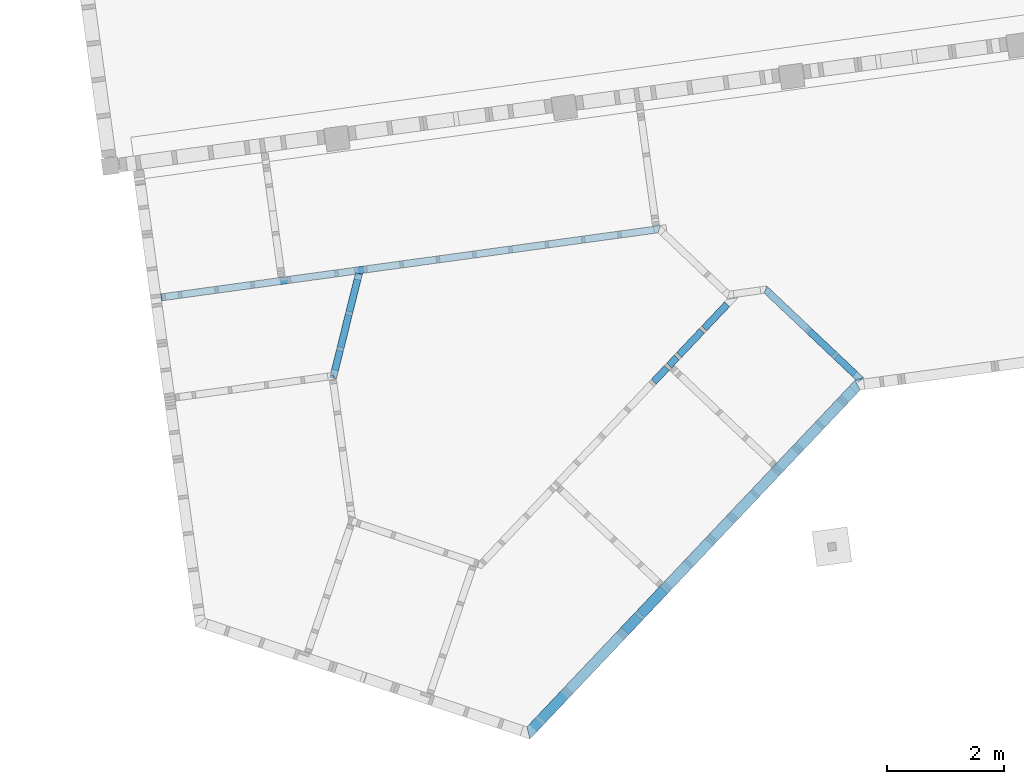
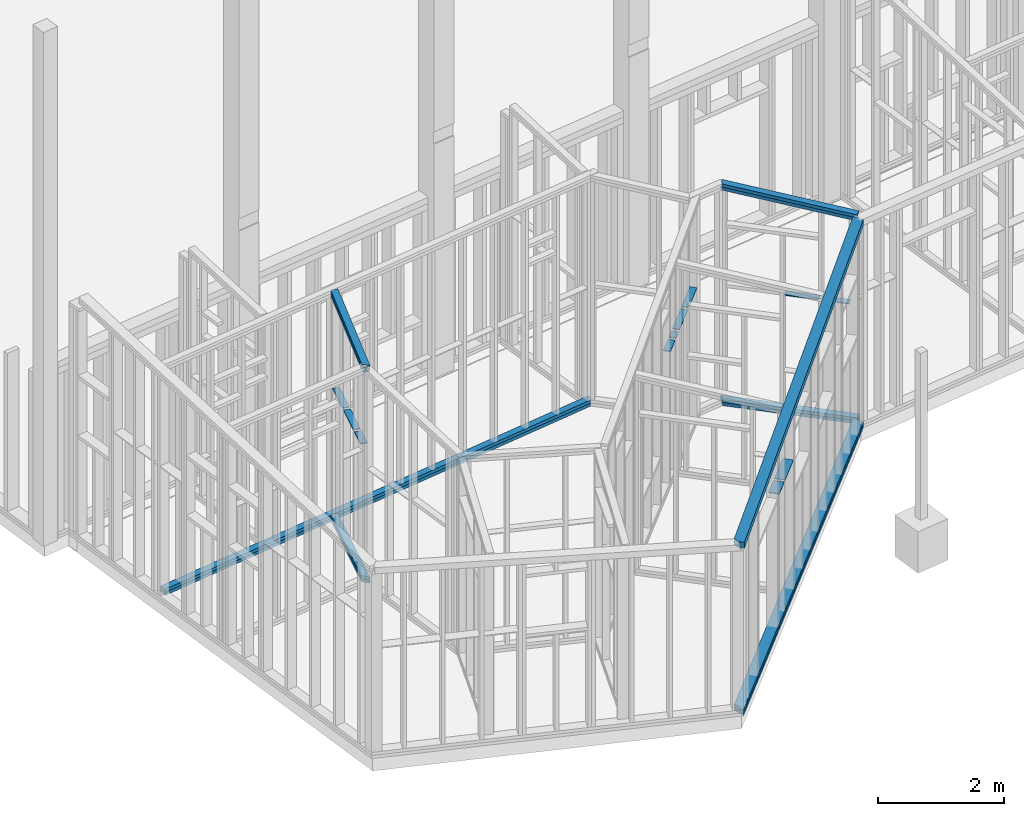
# One storey, part 17 of 24: 17 beams.
"""IFC2X3 building model written with IfcOpenShell, lengths in metres."""

from ifc_helpers import new_model, entity, si_unit, converted_unit, derived_unit, money_unit, direction, frame, frame_2d, origin_with_axes, place, context, subcontext, project, spatial, rectangle, extrude, boolean, clip, halfspace, faceted_brep, material, type_object, element, save


model = new_model("IFC2X3")

# Units and contexts
model_context = context("Model", 3, precision=1e-05, world=origin_with_axes(), true_north=direction((0.0, 1.0)))
body_context = subcontext(model_context, "Body", "Model", "MODEL_VIEW")
ifc_project = project(units=[si_unit("LENGTHUNIT", "METRE"), si_unit("AREAUNIT", "SQUARE_METRE"), si_unit("VOLUMEUNIT", "CUBIC_METRE"), converted_unit("PLANEANGLEUNIT", "DEGREE", entity("IfcPlaneAngleMeasure", 0.0174532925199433), si_unit("PLANEANGLEUNIT", "RADIAN"), dimensions=[0, 0, 0, 0, 0, 0, 0]), money_unit("EUR"), converted_unit("TIMEUNIT", "Year", entity("IfcTimeMeasure", 31557600.0), si_unit("TIMEUNIT", "SECOND"), dimensions=[0, 0, 1, 0, 0, 0, 0]), si_unit("MASSUNIT", "GRAM", prefix="KILO"), si_unit("THERMODYNAMICTEMPERATUREUNIT", "DEGREE_CELSIUS"), si_unit("LUMINOUSINTENSITYUNIT", "LUMEN"), si_unit("ENERGYUNIT", "JOULE", prefix="MEGA"), derived_unit("THERMALCONDUCTANCEUNIT", [(si_unit("POWERUNIT", "WATT"), 1), (si_unit("LENGTHUNIT", "METRE"), -1), (si_unit("THERMODYNAMICTEMPERATUREUNIT", "KELVIN"), -1)]), derived_unit("SPECIFICHEATCAPACITYUNIT", [(si_unit("ENERGYUNIT", "JOULE"), 1), (si_unit("MASSUNIT", "GRAM", prefix="KILO"), -1), (si_unit("THERMODYNAMICTEMPERATUREUNIT", "KELVIN"), -1)]), derived_unit("MASSDENSITYUNIT", [(si_unit("MASSUNIT", "GRAM", prefix="KILO"), 1), (si_unit("VOLUMEUNIT", "CUBIC_METRE"), -1)])], contexts=[model_context])

# Site, building, storey
site_placement = place(None, origin_with_axes())
site = spatial("IfcSite", under=ifc_project, at=site_placement, Name="Gelände", CompositionType="ELEMENT")
building_placement = place(site_placement, origin_with_axes())
building = spatial("IfcBuilding", under=site, at=building_placement, Name="Gebäude", CompositionType="ELEMENT")
storey_placement = place(building_placement, origin_with_axes())
storey = spatial("IfcBuildingStorey", under=building, at=storey_placement, Name="EG", CompositionType="ELEMENT", Elevation=0.0)

# Beams
ifc_material_1 = material(Name="Bauholz")
beam_type_1 = type_object("IfcBeamType", Name="Bauholz 120 x 60", PredefinedType="NOTDEFINED")
beam_1_placement = place(storey_placement, frame((97.76922316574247, -153.1216503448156, -0.04300000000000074), z_axis=(0.0, 0.0, 1.0), x_axis=(-0.6874340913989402, -0.7262467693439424, 0.0)))
element("IfcBeam", 1, at=beam_1_placement, inside=storey, type_object=beam_type_1, material=ifc_material_1, Name="Unterzug-021", context=body_context, shape_type="CSG", body=[
    boolean("DIFFERENCE", extrude(rectangle(XDim=0.06, YDim=0.12, at=frame_2d((-0.03, 0.0), x_axis=(1.0, 0.0))), frame((0.0, -0.02878464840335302, 0.0), z_axis=(0.0, 1.0, 0.0), x_axis=(0.0, 0.0, 1.0)), (0.0, 0.0, 1.0), 2.269469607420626), faceted_brep([(0.06000000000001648, 0.02876458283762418, 0.0), (-0.06000000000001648, -0.02876464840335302, 0.0), (-0.05999999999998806, -0.02878464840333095, 0.0), (0.06000000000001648, -0.02878464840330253, 0.0), (-0.06000000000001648, -0.02876464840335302, -0.06), (0.06000000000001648, 0.02876458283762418, -0.05999999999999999), (-0.05999999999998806, -0.02878464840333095, -0.05999999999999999), (0.06000000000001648, -0.02878464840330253, -0.05999999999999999)], [[[0, 1, 2, 3]], [[4, 1, 0, 5]], [[1, 4, 6, 2]], [[6, 7, 3, 2]], [[5, 0, 3, 7]], [[4, 5, 7, 6]]])),
])
beam_2_placement = place(storey_placement, frame((97.76922313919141, -153.1216503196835, 4.133874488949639), z_axis=(0.0, 0.0, 1.0), x_axis=(-0.6874340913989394, -0.7262467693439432, 0.0)))
element("IfcBeam", 2, at=beam_2_placement, inside=storey, type_object=beam_type_1, material=ifc_material_1, Name="Unterzug-021", context=body_context, shape_type="CSG", body=[
    boolean("DIFFERENCE", boolean("DIFFERENCE", clip(clip(extrude(rectangle(XDim=0.06, YDim=0.12, at=frame_2d((-0.03, 0.0), x_axis=(1.0, 0.0))), frame((0.0, -0.02822734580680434, 0.003092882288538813), z_axis=(0.0, 0.9940506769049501, -0.1089185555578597), x_axis=(0.0, 0.1089185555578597, 0.9940506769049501)), (0.0, 0.0, 1.0), 2.287797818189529), halfspace(frame((0.0, 0.0, 0.0), z_axis=(0.0, 1.0, 0.0), x_axis=(0.0, 0.0, 1.0)), True)), halfspace(frame((0.0, 2.227475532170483, 0.0), z_axis=(0.0, -1.0, 0.0), x_axis=(0.0, 0.0, -1.0)), True)), faceted_brep([(0.06000000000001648, 0.03204348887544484, -0.003511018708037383), (-0.003820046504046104, 0.0, 0.0), (0.06000000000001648, 0.0, 0.0), (0.003946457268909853, 0.0, -0.06035909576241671), (0.06000000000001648, 0.02814399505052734, -0.06344284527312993), (0.06000000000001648, 0.0, -0.06035909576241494)], [[[0, 1, 2]], [[3, 1, 0, 4]], [[1, 3, 5, 2]], [[4, 0, 2, 5]], [[3, 4, 5]]])), faceted_brep([(-0.06000000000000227, 2.224207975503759, -0.3040665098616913), (-0.06000000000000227, 2.227475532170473, -0.2742449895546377), (-0.05999999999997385, 2.227475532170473, -0.3044245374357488), (0.06000000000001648, 2.227475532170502, -0.2742449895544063), (0.06000000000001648, 2.224207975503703, -0.3040665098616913), (0.06000000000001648, 2.227475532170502, -0.3044245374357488)], [[[0, 1, 2]], [[3, 1, 0, 4]], [[1, 3, 5, 2]], [[4, 0, 2, 5]], [[3, 4, 5]]])),
])
beam_3_placement = place(storey_placement, frame((87.45742343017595, -153.2534633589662, -0.04300000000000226), z_axis=(0.0, 0.0, 1.0), x_axis=(0.1357111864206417, -0.9907484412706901, 0.0)))
element("IfcBeam", 3, at=beam_3_placement, inside=storey, type_object=beam_type_1, material=ifc_material_1, Name="Unterzug-021", context=body_context, shape_type="CSG", body=[
    boolean("DIFFERENCE", boolean("DIFFERENCE", extrude(rectangle(XDim=0.06000008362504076, YDim=0.12, at=frame_2d((-0.03000004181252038, 0.0), x_axis=(1.0, 0.0))), frame((0.0, 0.0, 0.0), z_axis=(0.0, 1.0, 0.0), x_axis=(0.0, 0.0, 1.0)), (0.0, 0.0, 1.0), 8.604462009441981), faceted_brep([(0.05999999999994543, 3.334071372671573, 8.362504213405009e-08), (0.05999999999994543, 3.334071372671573, -0.05999999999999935), (0.05999999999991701, 3.419799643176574, -0.05999999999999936), (0.05999999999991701, 3.419799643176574, 8.362504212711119e-08), (0.03044530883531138, 3.345889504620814, 8.362504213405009e-08), (0.03044530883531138, 3.345889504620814, -0.05999999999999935)], [[[0, 1, 2, 3]], [[0, 4, 5, 1]], [[5, 2, 1]], [[4, 3, 2, 5]], [[4, 0, 3]]])), faceted_brep([(-0.06000000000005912, 8.604442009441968, -0.06000008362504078), (-0.06000000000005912, 8.604442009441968, 0.0), (-0.0600000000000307, 8.604462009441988, 0.0), (-0.0600000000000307, 8.604462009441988, -0.06000008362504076), (0.05999999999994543, 8.54691276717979, 0.0), (0.05999999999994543, 8.54691276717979, -0.06000008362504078), (0.05999999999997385, 8.604462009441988, 0.0), (0.05999999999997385, 8.604462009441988, -0.06000008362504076)], [[[0, 1, 2, 3]], [[4, 1, 0, 5]], [[1, 4, 6, 2]], [[6, 7, 3, 2]], [[5, 0, 3, 7]], [[4, 5, 7, 6]]])),
])
beam_4_placement = place(storey_placement, frame((90.83470891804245, -152.8440630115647, -0.04299991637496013), z_axis=(0.0, 0.0, 1.0), x_axis=(-0.9703151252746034, 0.2418440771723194, 0.0)))
element("IfcBeam", 4, at=beam_4_placement, inside=storey, type_object=beam_type_1, material=ifc_material_1, Name="Unterzug-021", context=body_context, shape_type="CSG", body=[
    boolean("DIFFERENCE", extrude(rectangle(XDim=0.06000008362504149, YDim=0.12, at=frame_2d((-0.03000004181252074, 0.0), x_axis=(1.0, 0.0))), frame((0.0, 0.0, 0.0), z_axis=(0.0, 1.0, 0.0), x_axis=(0.0, 0.0, 1.0)), (0.0, 0.0, 1.0), 1.841665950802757), faceted_brep([(-0.06000000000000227, 1.841645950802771, -0.06000008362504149), (-0.06000000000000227, 1.841645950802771, 0.0), (-0.06000000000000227, 1.841665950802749, 0.0), (-0.06000000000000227, 1.841665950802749, -0.06000008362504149), (0.06000000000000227, 1.760392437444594, 0.0), (0.06000000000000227, 1.760392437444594, -0.06000008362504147), (0.06000000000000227, 1.841665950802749, 0.0), (0.06000000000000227, 1.841665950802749, -0.06000008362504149)], [[[0, 1, 2, 3]], [[4, 1, 0, 5]], [[1, 4, 6, 2]], [[6, 7, 3, 2]], [[5, 0, 3, 7]], [[4, 5, 7, 6]]])),
])
beam_5_placement = place(storey_placement, frame((90.83444930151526, -152.8451046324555, 4.305423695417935), z_axis=(0.0, 0.0, 1.0), x_axis=(-0.9703151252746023, 0.2418440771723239, 0.0)))
element("IfcBeam", 5, at=beam_5_placement, inside=storey, type_object=beam_type_1, material=ifc_material_1, Name="Unterzug-021", context=body_context, shape_type="CSG", body=[
    boolean("DIFFERENCE", clip(clip(extrude(rectangle(XDim=0.06, YDim=0.12, at=frame_2d((-0.03, 0.0), x_axis=(1.0, 0.0))), frame((0.0, -0.02195948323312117, 0.0028655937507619), z_axis=(0.0, 0.9915928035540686, -0.1293974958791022), x_axis=(0.0, 0.1293974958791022, 0.9915928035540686)), (0.0, 0.0, 1.0), 1.901391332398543), halfspace(frame((0.0, 0.0, 0.0), z_axis=(0.0, 1.0, 0.0), x_axis=(0.0, 0.0, 1.0)), True)), halfspace(frame((0.0, 1.841486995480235, 0.0), z_axis=(0.0, -1.0, 0.0), x_axis=(0.0, 0.0, -1.0)), True)), faceted_brep([(0.06000000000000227, 1.841486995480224, -0.2956591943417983), (-0.0142333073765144, 1.841486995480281, -0.2956591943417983), (-0.0142333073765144, 1.841486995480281, -0.2403040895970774), (0.06000000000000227, 1.841486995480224, -0.2403040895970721), (0.06000000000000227, 1.801994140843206, -0.2956591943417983), (0.001558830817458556, 1.801994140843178, -0.2956591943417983), (0.0, 1.805892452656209, -0.2356591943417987), (0.02432748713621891, 1.745054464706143, -0.2882288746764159), (0.02432748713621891, 1.745054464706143, -0.2356591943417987), (0.06000000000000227, 1.805892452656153, -0.2356591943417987), (0.0600000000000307, 1.759318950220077, -0.2356591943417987), (0.0600000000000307, 1.759318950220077, -0.2900903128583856)], [[[0, 1, 2, 3]], [[1, 0, 4, 5]], [[6, 2, 1, 5, 7, 8]], [[6, 9, 3, 2]], [[4, 0, 3, 9, 10, 11]], [[5, 4, 11, 7]], [[7, 11, 10, 8]], [[9, 6, 8, 10]]])),
])
beam_type_2 = type_object("IfcBeamType", Name="Bauholz 120 x 15", PredefinedType="NOTDEFINED")
beam_6_placement = place(storey_placement, frame((95.86421761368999, -154.689926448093, 2.471999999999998), z_axis=(0.0, 0.0, 1.0), x_axis=(0.7262467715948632, -0.687434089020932, 0.0)))
element("IfcBeam", 6, at=beam_6_placement, inside=storey, type_object=beam_type_2, material=ifc_material_1, Name="Unterzug-021", context=body_context, shape_type="CSG", body=[
    boolean("DIFFERENCE", boolean("DIFFERENCE", boolean("DIFFERENCE", extrude(rectangle(XDim=0.015, YDim=0.12, at=frame_2d((-0.0075, 0.0), x_axis=(1.0, 0.0))), frame((0.0, 0.0, 0.0), z_axis=(0.0, 1.0, 0.0), x_axis=(0.0, 0.0, 1.0)), (0.0, 0.0, 1.0), 1.814999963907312), faceted_brep([(0.05999993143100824, 1.250000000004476, -0.01500000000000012), (0.05999993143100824, 1.250000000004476, 0.0), (0.05999993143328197, 1.190000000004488, 0.0), (0.05999993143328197, 1.190000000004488, -0.01500000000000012), (-0.06000006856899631, 1.249999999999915, 0.0), (-0.06000006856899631, 1.249999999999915, -0.01500000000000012), (-0.060000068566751, 1.189999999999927, 0.0), (-0.060000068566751, 1.189999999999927, -0.01500000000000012)], [[[0, 1, 2, 3]], [[4, 1, 0, 5]], [[1, 4, 6, 2]], [[7, 3, 2, 6]], [[5, 0, 3, 7]], [[4, 5, 7, 6]]])), faceted_brep([(0.0599999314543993, 0.625000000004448, -0.01500000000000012), (0.0599999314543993, 0.625000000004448, 0.0), (0.05999993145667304, 0.5650000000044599, 0.0), (0.05999993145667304, 0.5650000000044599, -0.01500000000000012), (-0.06000006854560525, 0.6249999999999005, 0.0), (-0.06000006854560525, 0.6249999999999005, -0.01500000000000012), (-0.06000006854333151, 0.5649999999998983, 0.0), (-0.06000006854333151, 0.5649999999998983, -0.01500000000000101)], [[[0, 1, 2, 3]], [[4, 1, 0, 5]], [[1, 4, 6, 2]], [[7, 3, 2, 6]], [[5, 0, 3, 7]], [[4, 5, 7, 6]]])), faceted_brep([(0.05999993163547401, 0.3808320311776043, -0.01500000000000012), (0.05999993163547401, 0.3808320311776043, 0.0), (0.05999993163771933, 0.3208320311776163, 0.0), (0.05999993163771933, 0.3208320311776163, -0.01500000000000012), (-0.06000006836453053, 0.3808320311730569, 0.0), (-0.06000006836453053, 0.3808320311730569, -0.01500000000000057), (-0.06000006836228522, 0.3208320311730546, 0.0), (-0.06000006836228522, 0.3208320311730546, -0.01500000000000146)], [[[0, 1, 2, 3]], [[4, 1, 0, 5]], [[1, 4, 6, 2]], [[7, 3, 2, 6]], [[5, 0, 3, 7]], [[4, 5, 7, 6]]])),
])
beam_7_placement = place(storey_placement, frame((98.51999135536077, -153.8322953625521, 2.149999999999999), z_axis=(0.0, 0.0, 1.0), x_axis=(-0.6874340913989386, -0.726246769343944, 0.0)))
element("IfcBeam", 7, at=beam_7_placement, inside=storey, type_object=beam_type_2, material=ifc_material_1, Name="Unterzug-021", context=body_context, shape_type="CSG", body=[
    boolean("DIFFERENCE", extrude(rectangle(XDim=0.015, YDim=0.12, at=frame_2d((-0.0075, 0.0), x_axis=(1.0, 0.0))), frame((0.0, 0.0, 0.0), z_axis=(0.0, 1.0, 0.0), x_axis=(0.0, 0.0, 1.0)), (0.0, 0.0, 1.0), 1.062428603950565), faceted_brep([(0.06000007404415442, 0.6249999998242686, 0.0), (-0.05999992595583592, 0.6250000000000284, 0.0), (-0.05999992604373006, 0.5649999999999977, 0.0), (0.06000007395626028, 0.5649999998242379, 0.0), (-0.05999992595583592, 0.6250000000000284, -0.01500000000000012), (0.06000007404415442, 0.6249999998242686, -0.01500000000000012), (-0.05999992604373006, 0.5649999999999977, -0.01500000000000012), (0.06000007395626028, 0.5649999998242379, -0.01500000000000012)], [[[0, 1, 2, 3]], [[4, 1, 0, 5]], [[1, 4, 6, 2]], [[7, 3, 2, 6]], [[5, 0, 3, 7]], [[4, 5, 7, 6]]])),
])
beam_8_placement = place(storey_placement, frame((90.80859343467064, -152.9488422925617, 2.471999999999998), z_axis=(0.0, 0.0, 1.0), x_axis=(-0.9703151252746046, 0.2418440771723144, 0.0)))
element("IfcBeam", 8, at=beam_8_placement, inside=storey, type_object=beam_type_2, material=ifc_material_1, Name="Unterzug-021", context=body_context, shape_type="CSG", body=[
    boolean("DIFFERENCE", boolean("DIFFERENCE", extrude(rectangle(XDim=0.015, YDim=0.12, at=frame_2d((-0.0075, 0.0), x_axis=(1.0, 0.0))), frame((0.0, 0.0, 0.0), z_axis=(0.0, 1.0, 0.0), x_axis=(0.0, 0.0, 1.0)), (0.0, 0.0, 1.0), 1.592407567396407), faceted_brep([(-0.05999993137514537, 0.5649999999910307, -0.01500000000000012), (-0.05999993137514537, 0.5649999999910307, 0.0), (-0.05999993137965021, 0.624999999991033, 0.0), (-0.05999993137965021, 0.624999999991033, -0.01500000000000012), (0.06000006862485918, 0.5649999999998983, 0.0), (0.06000006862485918, 0.5649999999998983, -0.01500000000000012), (0.06000006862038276, 0.6249999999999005, 0.0), (0.06000006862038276, 0.6249999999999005, -0.01500000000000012)], [[[0, 1, 2, 3]], [[4, 1, 0, 5]], [[1, 4, 6, 2]], [[7, 3, 2, 6]], [[5, 0, 3, 7]], [[4, 5, 7, 6]]])), faceted_brep([(-0.05999993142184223, 1.189999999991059, -0.01500000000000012), (-0.05999993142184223, 1.189999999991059, 0.0), (-0.05999993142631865, 1.249999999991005, 0.0), (-0.05999993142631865, 1.249999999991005, -0.01500000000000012), (0.0600000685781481, 1.189999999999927, 0.0), (0.0600000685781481, 1.189999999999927, -0.01500000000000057), (0.0600000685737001, 1.249999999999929, 0.0), (0.0600000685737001, 1.249999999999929, -0.01500000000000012)], [[[0, 1, 2, 3]], [[4, 1, 0, 5]], [[1, 4, 6, 2]], [[7, 3, 2, 6]], [[5, 0, 3, 7]], [[4, 5, 7, 6]]])),
])
ifc_material_2 = material(Name="Holz, Bauholz")
beam_type_3 = type_object("IfcBeamType", Name="Holz, Bauholz 120 x 60", PredefinedType="NOTDEFINED")
beam_9_placement = place(storey_placement, frame((90.83449974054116, -152.844902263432, 4.244942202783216), z_axis=(0.0, 0.0, 1.0), x_axis=(-0.9703151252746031, 0.2418440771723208, 0.0)))
element("IfcBeam", 9, at=beam_9_placement, inside=storey, type_object=beam_type_3, material=ifc_material_2, Name="Unterzug-021", context=body_context, shape_type="CSG", body=[
    boolean("DIFFERENCE", clip(clip(extrude(rectangle(XDim=0.06, YDim=0.12, at=frame_2d((-0.03, 0.0), x_axis=(1.0, 0.0))), frame((0.0, -0.02195948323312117, 0.0028655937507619), z_axis=(0.0, 0.9915928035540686, -0.1293974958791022), x_axis=(0.0, 0.1293974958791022, 0.9915928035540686)), (0.0, 0.0, 1.0), 1.901551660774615), halfspace(frame((0.0, 0.0, 0.0), z_axis=(0.0, 1.0, 0.0), x_axis=(0.0, 0.0, 1.0)), True)), halfspace(frame((0.0, 1.841645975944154, 0.0), z_axis=(0.0, -1.0, 0.0), x_axis=(0.0, 0.0, -1.0)), True)), faceted_brep([(0.06000000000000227, 1.841645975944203, -0.2951777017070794), (-0.015772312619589, 1.841645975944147, -0.2951777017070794), (-0.01577231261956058, 1.841645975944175, -0.2403248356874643), (0.05999999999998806, 1.841645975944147, -0.2403248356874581), (0.05999999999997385, 1.798304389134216, -0.2951777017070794), (0.001558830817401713, 1.798304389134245, -0.2951777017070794), (0.0, 1.80220270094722, -0.2351777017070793), (0.02298355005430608, 1.744725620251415, -0.2881859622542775), (0.02298355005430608, 1.744725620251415, -0.2351777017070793), (0.02432748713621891, 1.745263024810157, -0.2277473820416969), (0.05999999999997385, 1.759527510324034, -0.2296088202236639), (0.001558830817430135, 1.80220270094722, -0.2351777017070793), (0.05999999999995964, 1.759527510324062, -0.2901175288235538), (0.02432748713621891, 1.745263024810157, -0.2351777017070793)], [[[0, 1, 2, 3]], [[1, 0, 4, 5]], [[6, 2, 1, 5, 7, 8]], [[9, 10, 3, 2, 6, 11]], [[4, 0, 3, 10, 12]], [[5, 4, 12, 7]], [[7, 12, 10, 9, 13, 8]], [[11, 6, 8, 13]], [[9, 11, 13]]])),
])
beam_10_placement = place(storey_placement, frame((97.76922316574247, -153.1216503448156, -0.1030000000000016), z_axis=(0.0, 0.0, 1.0), x_axis=(-0.6874340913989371, -0.7262467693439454, 0.0)))
element("IfcBeam", 10, at=beam_10_placement, inside=storey, type_object=beam_type_3, material=ifc_material_2, Name="Unterzug-021", context=body_context, shape_type="CSG", body=[
    boolean("DIFFERENCE", extrude(rectangle(XDim=0.06, YDim=0.12, at=frame_2d((-0.03, 0.0), x_axis=(1.0, 0.0))), frame((0.0, -0.02878464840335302, 0.0), z_axis=(0.0, 1.0, 0.0), x_axis=(0.0, 0.0, 1.0)), (0.0, 0.0, 1.0), 2.26946960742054), faceted_brep([(0.05999999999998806, 0.02876458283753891, 0.0), (-0.05999999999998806, -0.02876464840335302, 0.0), (-0.06000000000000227, -0.02878464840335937, 0.0), (0.06000000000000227, -0.02878464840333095, 0.0), (-0.05999999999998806, -0.02876464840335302, -0.06), (0.05999999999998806, 0.02876458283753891, -0.06), (-0.06000000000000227, -0.02878464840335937, -0.06), (0.06000000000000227, -0.02878464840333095, -0.06)], [[[0, 1, 2, 3]], [[4, 1, 0, 5]], [[1, 4, 6, 2]], [[6, 7, 3, 2]], [[5, 0, 3, 7]], [[4, 5, 7, 6]]])),
])
beam_11_placement = place(storey_placement, frame((87.45742343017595, -153.2534633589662, -0.1030000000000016), z_axis=(0.0, 0.0, 1.0), x_axis=(0.1357111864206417, -0.9907484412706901, 0.0)))
element("IfcBeam", 11, at=beam_11_placement, inside=storey, type_object=beam_type_3, material=ifc_material_2, Name="Unterzug-021", context=body_context, shape_type="CSG", body=[
    boolean("DIFFERENCE", boolean("DIFFERENCE", extrude(rectangle(XDim=0.06, YDim=0.12, at=frame_2d((-0.03, 0.0), x_axis=(1.0, 0.0))), frame((0.0, 0.0, 0.0), z_axis=(0.0, 1.0, 0.0), x_axis=(0.0, 0.0, 1.0)), (0.0, 0.0, 1.0), 8.604462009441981), faceted_brep([(0.05999999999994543, 3.334071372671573, 0.0), (0.05999999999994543, 3.334071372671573, -0.06), (0.05999999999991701, 3.419799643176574, -0.06), (0.05999999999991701, 3.419799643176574, 0.0), (0.03044530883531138, 3.345889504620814, 0.0), (0.03044530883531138, 3.345889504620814, -0.06)], [[[0, 1, 2, 3]], [[0, 4, 5, 1]], [[5, 2, 1]], [[4, 3, 2, 5]], [[4, 0, 3]]])), faceted_brep([(-0.06000000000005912, 8.604442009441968, -0.06), (-0.06000000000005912, 8.604442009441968, 0.0), (-0.0600000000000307, 8.604462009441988, 0.0), (-0.0600000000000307, 8.604462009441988, -0.06), (0.05999999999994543, 8.54691276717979, 0.0), (0.05999999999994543, 8.54691276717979, -0.06), (0.05999999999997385, 8.604462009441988, 0.0), (0.05999999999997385, 8.604462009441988, -0.06)], [[[0, 1, 2, 3]], [[4, 1, 0, 5]], [[1, 4, 6, 2]], [[6, 7, 3, 2]], [[5, 0, 3, 7]], [[4, 5, 7, 6]]])),
])
beam_12_placement = place(storey_placement, frame((90.83470891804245, -152.8440630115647, -0.1030000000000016), z_axis=(0.0, 0.0, 1.0), x_axis=(-0.9703151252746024, 0.2418440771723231, 0.0)))
element("IfcBeam", 12, at=beam_12_placement, inside=storey, type_object=beam_type_3, material=ifc_material_2, Name="Unterzug-021", context=body_context, shape_type="CSG", body=[
    boolean("DIFFERENCE", extrude(rectangle(XDim=0.06, YDim=0.12, at=frame_2d((-0.03, 0.0), x_axis=(1.0, 0.0))), frame((0.0, 0.0, 0.0), z_axis=(0.0, 1.0, 0.0), x_axis=(0.0, 0.0, 1.0)), (0.0, 0.0, 1.0), 1.841665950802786), faceted_brep([(-0.05999999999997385, 1.8416459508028, -0.06), (-0.05999999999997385, 1.8416459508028, 0.0), (-0.05999999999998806, 1.841665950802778, 0.0), (-0.05999999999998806, 1.841665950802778, -0.06), (0.0600000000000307, 1.760392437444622, 0.0), (0.0600000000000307, 1.760392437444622, -0.06), (0.06000000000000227, 1.841665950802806, 0.0), (0.06000000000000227, 1.841665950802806, -0.06)], [[[0, 1, 2, 3]], [[4, 1, 0, 5]], [[1, 4, 6, 2]], [[6, 7, 3, 2]], [[5, 0, 3, 7]], [[4, 5, 7, 6]]])),
])
beam_13_placement = place(storey_placement, frame((97.76922313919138, -153.1216503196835, 4.073515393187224), z_axis=(0.0, 0.0, 1.0), x_axis=(-0.6874340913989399, -0.7262467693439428, 0.0)))
element("IfcBeam", 13, at=beam_13_placement, inside=storey, type_object=beam_type_3, material=ifc_material_2, Name="Unterzug-021", context=body_context, shape_type="CSG", body=[
    boolean("DIFFERENCE", clip(clip(extrude(rectangle(XDim=0.06, YDim=0.12, at=frame_2d((-0.03, 0.0), x_axis=(1.0, 0.0))), frame((0.0, -0.01848409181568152, 0.002025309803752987), z_axis=(0.0, 0.9940506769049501, -0.1089185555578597), x_axis=(0.0, 0.1089185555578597, 0.9940506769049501)), (0.0, 0.0, 1.0), 2.27799625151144), halfspace(frame((0.0, 0.0, 0.0), z_axis=(0.0, 1.0, 0.0), x_axis=(0.0, 0.0, 1.0)), True)), halfspace(frame((0.0, 2.227475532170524, 0.0), z_axis=(0.0, -1.0, 0.0), x_axis=(0.0, 0.0, -1.0)), True)), faceted_brep([(-0.05999999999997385, 2.217672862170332, -0.3033504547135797), (-0.05999999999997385, 2.224207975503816, -0.2437074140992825), (-0.05999999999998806, 2.227475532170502, -0.2440654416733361), (-0.05999999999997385, 2.227475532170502, -0.3044245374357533), (0.004067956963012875, 2.224207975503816, -0.2437074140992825), (0.01220387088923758, 2.217672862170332, -0.3033504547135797), (0.0600000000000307, 2.179280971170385, -0.2387847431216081), (0.06000000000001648, 2.227475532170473, -0.2440654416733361), (0.06000000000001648, 2.227475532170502, -0.3044245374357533), (0.0600000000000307, 2.179280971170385, -0.2991438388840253)], [[[0, 1, 2, 3]], [[4, 1, 0, 5]], [[4, 6, 7, 2, 1]], [[7, 8, 3, 2]], [[5, 0, 3, 8, 9]], [[6, 4, 5, 9]], [[6, 9, 8, 7]]])),
])
beam_type_4 = type_object("IfcBeamType", Name="Bauholz 180 x 120", PredefinedType="NOTDEFINED")
beam_14_placement = place(storey_placement, frame((99.33878958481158, -154.7503261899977, 3.877163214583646), z_axis=(0.0, 0.0, 1.0), x_axis=(-0.7262467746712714, 0.6874340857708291, 0.0)))
element("IfcBeam", 14, at=beam_14_placement, inside=storey, type_object=beam_type_4, material=ifc_material_1, Name="Unterzug-035", context=body_context, shape_type="CSG", body=[
    boolean("DIFFERENCE", boolean("DIFFERENCE", clip(clip(extrude(rectangle(XDim=0.12, YDim=0.18, at=frame_2d((-0.06, 0.0), x_axis=(1.0, 0.0))), frame((0.0, -0.03107596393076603, 0.002735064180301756), z_axis=(0.0, 0.9961492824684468, -0.08767329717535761), x_axis=(0.0, 0.08767329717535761, 0.9961492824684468)), (0.0, 0.0, 1.0), 8.299903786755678), halfspace(frame((0.0, 0.0, 0.0), z_axis=(0.0, 1.0, 0.0), x_axis=(0.0, 0.0, 1.0)), True)), halfspace(frame((0.0, 8.168973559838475, 0.0), z_axis=(0.0, -1.0, 0.0), x_axis=(0.0, 0.0, -1.0)), True)), faceted_brep([(0.09000000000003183, 8.109564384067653, -0.8342045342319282), (-0.001584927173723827, 8.168973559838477, -0.8394332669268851), (0.09000000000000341, 8.168973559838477, -0.839433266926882), (0.001536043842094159, 8.168973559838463, -0.7189693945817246), (0.09000000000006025, 8.111588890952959, -0.71391884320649), (0.09000000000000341, 8.168973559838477, -0.7189693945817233)], [[[0, 1, 2]], [[3, 1, 0, 4]], [[1, 3, 5, 2]], [[4, 0, 2, 5]], [[3, 4, 5]]])), faceted_brep([(-0.08999999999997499, 0.03655612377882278, -0.003217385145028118), (-0.08999999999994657, 0.03095520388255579, -0.1231883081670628), (-0.08999999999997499, 0.0, -0.1204638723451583), (-0.08999999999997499, 0.0, 0.0), (-0.007589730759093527, 0.0, -0.1204638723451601), (0.007321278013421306, 0.0, 0.0)], [[[0, 1, 2, 3]], [[4, 1, 0, 5]], [[1, 4, 2]], [[4, 5, 3, 2]], [[5, 0, 3]]])),
])
beam_type_5 = type_object("IfcBeamType", Name="Holz, Bauholz 180 x 60", PredefinedType="NOTDEFINED")
beam_15_placement = place(storey_placement, frame((93.72315871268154, -160.6830168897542, -0.1030000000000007), z_axis=(0.0, 0.0, 1.0), x_axis=(0.7262467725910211, -0.6874340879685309, 0.0)))
element("IfcBeam", 15, at=beam_15_placement, inside=storey, type_object=beam_type_5, material=ifc_material_2, Name="Unterzug-021", context=body_context, shape_type="CSG", body=[
    boolean("DIFFERENCE", boolean("DIFFERENCE", extrude(rectangle(XDim=0.06, YDim=0.18, at=frame_2d((-0.03, 0.0), x_axis=(1.0, 0.0))), frame((0.0, -0.05760324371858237, 0.0), z_axis=(0.0, 1.0, 0.0), x_axis=(0.0, 0.0, 1.0)), (0.0, 0.0, 1.0), 8.258266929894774), faceted_brep([(0.08999999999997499, -0.05758324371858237, -0.06000000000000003), (0.08999999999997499, -0.05758324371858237, 0.0), (0.09000000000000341, -0.0576032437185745, 0.0), (0.09000000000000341, -0.0576032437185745, -0.06), (-0.08999999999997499, 0.05758324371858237, 0.0), (-0.08999999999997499, 0.05758324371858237, -0.05999999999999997), (-0.09000000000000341, -0.0576032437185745, 0.0), (-0.09000000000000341, -0.0576032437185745, -0.06)], [[[0, 1, 2, 3]], [[4, 1, 0, 5]], [[1, 4, 6, 2]], [[7, 3, 2, 6]], [[5, 0, 3, 7]], [[4, 5, 7, 6]]])), faceted_brep([(-0.09000000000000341, 8.200643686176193, 0.0), (0.09000000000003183, 8.137303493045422, 0.0), (0.09000000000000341, 8.200663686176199, 0.0), (-0.09000000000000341, 8.200663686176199, 0.0), (0.09000000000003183, 8.137303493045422, -0.06000000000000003), (-0.09000000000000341, 8.200643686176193, -0.05999999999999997), (0.09000000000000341, 8.200663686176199, -0.06), (-0.09000000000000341, 8.200663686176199, -0.06)], [[[0, 1, 2, 3]], [[4, 1, 0, 5]], [[1, 4, 6, 2]], [[2, 6, 7, 3]], [[5, 0, 3, 7]], [[4, 5, 7, 6]]])),
])
beam_type_6 = type_object("IfcBeamType", Name="Bauholz 180 x 60", PredefinedType="NOTDEFINED")
beam_16_placement = place(storey_placement, frame((93.72315871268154, -160.6830168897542, -0.04300000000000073), z_axis=(0.0, 0.0, 1.0), x_axis=(0.7262467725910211, -0.6874340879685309, 0.0)))
element("IfcBeam", 16, at=beam_16_placement, inside=storey, type_object=beam_type_6, material=ifc_material_1, Name="Unterzug-021", context=body_context, shape_type="CSG", body=[
    boolean("DIFFERENCE", boolean("DIFFERENCE", extrude(rectangle(XDim=0.06, YDim=0.18, at=frame_2d((-0.03, 0.0), x_axis=(1.0, 0.0))), frame((0.0, -0.05760324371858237, 0.0), z_axis=(0.0, 1.0, 0.0), x_axis=(0.0, 0.0, 1.0)), (0.0, 0.0, 1.0), 8.258266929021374), faceted_brep([(0.08999999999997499, -0.05758324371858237, -0.06000000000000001), (0.08999999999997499, -0.05758324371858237, 0.0), (0.09000000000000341, -0.0576032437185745, 0.0), (0.09000000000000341, -0.0576032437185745, -0.06), (-0.08999999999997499, 0.05758324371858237, 0.0), (-0.08999999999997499, 0.05758324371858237, -0.05999999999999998), (-0.09000000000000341, -0.0576032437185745, 0.0), (-0.09000000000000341, -0.0576032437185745, -0.06)], [[[0, 1, 2, 3]], [[4, 1, 0, 5]], [[1, 4, 6, 2]], [[7, 3, 2, 6]], [[5, 0, 3, 7]], [[4, 5, 7, 6]]])), faceted_brep([(-0.09000000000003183, 8.20064368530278, 0.0), (0.09000000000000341, 8.137303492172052, 0.0), (0.09000000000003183, 8.200663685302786, 0.0), (-0.09000000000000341, 8.200663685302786, 0.0), (0.09000000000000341, 8.137303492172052, -0.06000000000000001), (-0.09000000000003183, 8.20064368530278, -0.05999999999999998), (0.09000000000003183, 8.200663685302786, -0.06), (-0.09000000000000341, 8.200663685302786, -0.06)], [[[0, 1, 2, 3]], [[4, 1, 0, 5]], [[1, 4, 6, 2]], [[2, 6, 7, 3]], [[5, 0, 3, 7]], [[4, 5, 7, 6]]])),
])
beam_type_7 = type_object("IfcBeamType", Name="Bauholz 180 x 15", PredefinedType="NOTDEFINED")
beam_17_placement = place(storey_placement, frame((95.36723806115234, -158.9461124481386, 2.472), z_axis=(0.0, 0.0, 1.0), x_axis=(0.7262467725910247, -0.6874340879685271, 0.0)))
element("IfcBeam", 17, at=beam_17_placement, inside=storey, type_object=beam_type_7, material=ifc_material_1, Name="Unterzug-021", context=body_context, shape_type="CSG", body=[
    boolean("DIFFERENCE", extrude(rectangle(XDim=0.015, YDim=0.18, at=frame_2d((-0.0075, 0.0), x_axis=(1.0, 0.0))), frame((0.0, 0.0, 0.0), z_axis=(0.0, 1.0, 0.0), x_axis=(0.0, 0.0, 1.0)), (0.0, 0.0, 1.0), 0.9660140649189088), faceted_brep([(0.08999999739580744, 0.4010140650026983, -0.01500000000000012), (0.08999999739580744, 0.4010140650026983, 0.0), (0.08999999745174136, 0.3410140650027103, 0.0), (0.08999999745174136, 0.3410140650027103, -0.01500000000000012), (-0.09000000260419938, 0.4010140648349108, 0.0), (-0.09000000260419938, 0.4010140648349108, -0.01500000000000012), (-0.09000000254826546, 0.3410140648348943, 0.0), (-0.09000000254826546, 0.3410140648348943, -0.01500000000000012)], [[[0, 1, 2, 3]], [[4, 1, 0, 5]], [[1, 4, 6, 2]], [[7, 3, 2, 6]], [[5, 0, 3, 7]], [[4, 5, 7, 6]]])),
])

save(model, "model.ifc")
